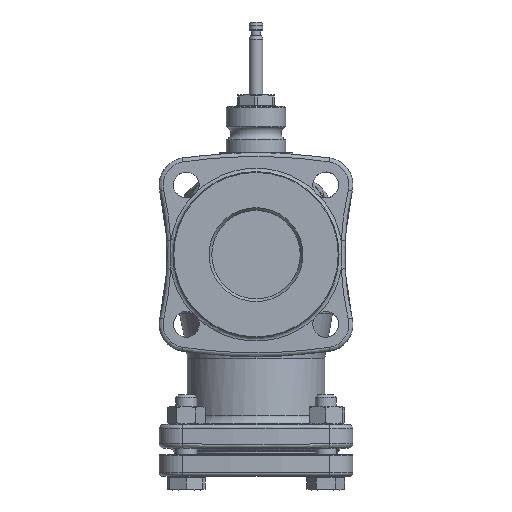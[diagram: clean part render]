
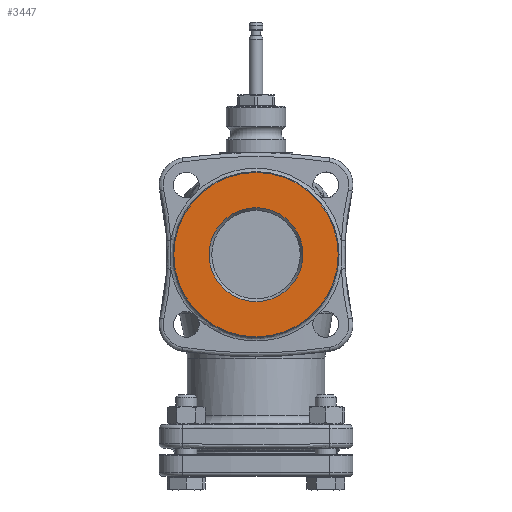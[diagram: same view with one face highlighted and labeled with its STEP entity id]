
A CAD part, front view. The second image highlights one B-rep face of the part: STEP entity #3447.
In plain terms, the highlighted planar face has unit normal (0, -1, 0).
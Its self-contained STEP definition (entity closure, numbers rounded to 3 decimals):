
#1785=FACE_BOUND('',#6652,.T.);
#1786=FACE_BOUND('',#6653,.T.);
#3135=PLANE('',#23501);
#3447=ADVANCED_FACE('',(#1785,#1786),#3135,.T.);
#6652=EDGE_LOOP('',(#10093));
#6653=EDGE_LOOP('',(#10094));
#8327=CIRCLE('',#23499,60.443);
#8328=CIRCLE('',#23500,34.5);
#10093=ORIENTED_EDGE('',*,*,#18635,.F.);
#10094=ORIENTED_EDGE('',*,*,#18636,.T.);
#16486=VERTEX_POINT('',#31029);
#16487=VERTEX_POINT('',#31031);
#18635=EDGE_CURVE('',#16486,#16486,#8327,.T.);
#18636=EDGE_CURVE('',#16487,#16487,#8328,.T.);
#23499=AXIS2_PLACEMENT_3D('',#31028,#25823,#25824);
#23500=AXIS2_PLACEMENT_3D('',#31030,#25825,#25826);
#23501=AXIS2_PLACEMENT_3D('',#31032,#25827,#25828);
#25823=DIRECTION('',(0.,1.,0.));
#25824=DIRECTION('',(0.,0.,-1.));
#25825=DIRECTION('',(0.,1.,0.));
#25826=DIRECTION('',(0.,0.,-1.));
#25827=DIRECTION('',(0.,-1.,0.));
#25828=DIRECTION('',(0.,0.,-1.));
#31028=CARTESIAN_POINT('',(0.,-145.,0.));
#31029=CARTESIAN_POINT('',(0.,-145.,-60.443));
#31030=CARTESIAN_POINT('',(0.,-145.,0.));
#31031=CARTESIAN_POINT('',(0.,-145.,-34.5));
#31032=CARTESIAN_POINT('',(0.,-145.,0.));
